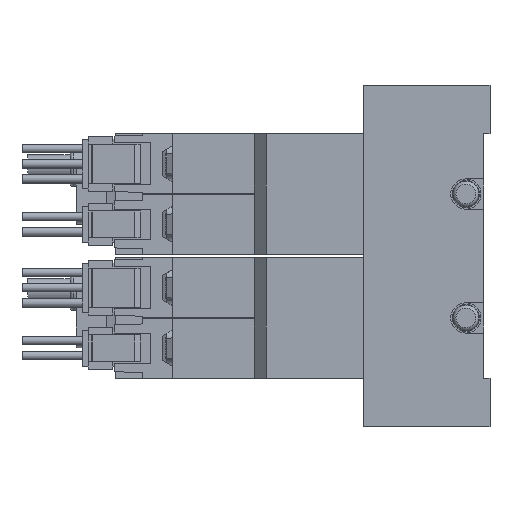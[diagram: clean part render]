
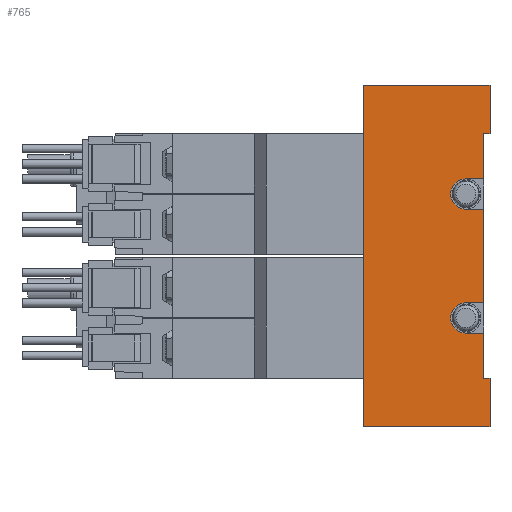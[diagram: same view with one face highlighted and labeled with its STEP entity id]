
A CAD part, left-side view. The second image highlights one B-rep face of the part: STEP entity #765.
In plain terms, the highlighted planar face has unit normal (-1, 0, 0) as drawn and (1, 0, 0) by its records, which use the part's own axes.
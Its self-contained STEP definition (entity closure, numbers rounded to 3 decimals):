
#765=ADVANCED_FACE('',(#1685),#1686,.F.);
#1685=FACE_OUTER_BOUND('',#2651,.T.);
#1686=PLANE('',#2652);
#2651=EDGE_LOOP('',(#5966,#5967,#5968,#5969,#5970,#5971,#5972,#5973,#5974,#5975,#5976,#5977,#5978,#5979,#5980,#5981));
#2652=AXIS2_PLACEMENT_3D('',#5982,#5983,#5984);
#5966=ORIENTED_EDGE('',*,*,#7183,.T.);
#5967=ORIENTED_EDGE('',*,*,#7208,.T.);
#5968=ORIENTED_EDGE('',*,*,#7209,.F.);
#5969=ORIENTED_EDGE('',*,*,#7210,.F.);
#5970=ORIENTED_EDGE('',*,*,#7211,.T.);
#5971=ORIENTED_EDGE('',*,*,#7212,.T.);
#5972=ORIENTED_EDGE('',*,*,#7174,.T.);
#5973=ORIENTED_EDGE('',*,*,#7188,.F.);
#5974=ORIENTED_EDGE('',*,*,#7213,.F.);
#5975=ORIENTED_EDGE('',*,*,#7179,.F.);
#5976=ORIENTED_EDGE('',*,*,#7170,.T.);
#5977=ORIENTED_EDGE('',*,*,#7194,.F.);
#5978=ORIENTED_EDGE('',*,*,#7214,.F.);
#5979=ORIENTED_EDGE('',*,*,#7149,.F.);
#5980=ORIENTED_EDGE('',*,*,#7167,.T.);
#5981=ORIENTED_EDGE('',*,*,#7215,.T.);
#5982=CARTESIAN_POINT('',(17.5,1.0,28.25));
#5983=DIRECTION('',(-1.0,0.0,0.0));
#5984=DIRECTION('',(0.0,0.0,1.0));
#7149=EDGE_CURVE('',#8893,#8894,#8895,.T.);
#7167=EDGE_CURVE('',#8893,#8926,#8929,.T.);
#7170=EDGE_CURVE('',#8934,#8932,#8935,.T.);
#7174=EDGE_CURVE('',#8942,#8940,#8943,.T.);
#7179=EDGE_CURVE('',#8934,#8951,#8952,.T.);
#7183=EDGE_CURVE('',#8958,#8959,#8960,.T.);
#7188=EDGE_CURVE('',#8968,#8940,#8969,.T.);
#7194=EDGE_CURVE('',#8979,#8932,#8980,.T.);
#7208=EDGE_CURVE('',#8959,#9002,#9003,.T.);
#7209=EDGE_CURVE('',#9004,#9002,#9005,.T.);
#7210=EDGE_CURVE('',#9006,#9004,#9007,.T.);
#7211=EDGE_CURVE('',#9006,#9008,#9009,.T.);
#7212=EDGE_CURVE('',#9008,#8942,#9010,.T.);
#7213=EDGE_CURVE('',#8951,#8968,#9011,.T.);
#7214=EDGE_CURVE('',#8894,#8979,#9012,.T.);
#7215=EDGE_CURVE('',#8926,#8958,#9013,.T.);
#8893=VERTEX_POINT('',#11743);
#8894=VERTEX_POINT('',#11744);
#8895=LINE('',#11745,#11746);
#8926=VERTEX_POINT('',#11826);
#8929=LINE('',#11830,#11831);
#8932=VERTEX_POINT('',#11835);
#8934=VERTEX_POINT('',#11838);
#8935=LINE('',#11839,#11840);
#8940=VERTEX_POINT('',#11847);
#8942=VERTEX_POINT('',#11850);
#8943=LINE('',#11851,#11852);
#8951=VERTEX_POINT('',#11862);
#8952=LINE('',#11863,#11864);
#8958=VERTEX_POINT('',#11873);
#8959=VERTEX_POINT('',#11874);
#8960=LINE('',#11875,#11876);
#8968=VERTEX_POINT('',#11887);
#8969=LINE('',#11888,#11889);
#8979=VERTEX_POINT('',#11902);
#8980=LINE('',#11903,#11904);
#9002=VERTEX_POINT('',#11933);
#9003=LINE('',#11934,#11935);
#9004=VERTEX_POINT('',#11936);
#9005=LINE('',#11937,#11938);
#9006=VERTEX_POINT('',#11939);
#9007=LINE('',#11940,#11941);
#9008=VERTEX_POINT('',#11942);
#9009=LINE('',#11943,#11944);
#9010=LINE('',#11945,#11946);
#9011=CIRCLE('',#11947,2.5);
#9012=CIRCLE('',#11948,2.5);
#9013=LINE('',#11949,#11950);
#11743=CARTESIAN_POINT('',(17.5,1.0,-12.75));
#11744=CARTESIAN_POINT('',(17.5,4.0,-12.75));
#11745=CARTESIAN_POINT('',(17.5,1.0,-12.75));
#11746=VECTOR('',#13218,1.0);
#11826=CARTESIAN_POINT('',(17.5,1.0,-20.25));
#11830=CARTESIAN_POINT('',(17.5,1.0,28.25));
#11831=VECTOR('',#13255,1.0);
#11835=CARTESIAN_POINT('',(17.5,1.0,-7.75));
#11838=CARTESIAN_POINT('',(17.5,1.0,7.75));
#11839=CARTESIAN_POINT('',(17.5,1.0,28.25));
#11840=VECTOR('',#13258,1.0);
#11847=CARTESIAN_POINT('',(17.5,1.0,12.75));
#11850=CARTESIAN_POINT('',(17.5,1.0,20.25));
#11851=CARTESIAN_POINT('',(17.5,1.0,28.25));
#11852=VECTOR('',#13262,1.0);
#11862=CARTESIAN_POINT('',(17.5,4.0,7.75));
#11863=CARTESIAN_POINT('',(17.5,1.0,7.75));
#11864=VECTOR('',#13271,1.0);
#11873=CARTESIAN_POINT('',(17.5,0.0,-20.25));
#11874=CARTESIAN_POINT('',(17.5,0.0,-28.25));
#11875=CARTESIAN_POINT('',(17.5,0.0,-20.25));
#11876=VECTOR('',#13275,1.0);
#11887=CARTESIAN_POINT('',(17.5,4.0,12.75));
#11888=CARTESIAN_POINT('',(17.5,1.0,12.75));
#11889=VECTOR('',#13282,1.0);
#11902=CARTESIAN_POINT('',(17.5,4.0,-7.75));
#11903=CARTESIAN_POINT('',(17.5,1.0,-7.75));
#11904=VECTOR('',#13292,1.0);
#11933=CARTESIAN_POINT('',(17.5,21.0,-28.25));
#11934=CARTESIAN_POINT('',(17.5,1.0,-28.25));
#11935=VECTOR('',#13318,1.0);
#11936=CARTESIAN_POINT('',(17.5,21.0,28.25));
#11937=CARTESIAN_POINT('',(17.5,21.0,28.25));
#11938=VECTOR('',#13319,1.0);
#11939=CARTESIAN_POINT('',(17.5,0.0,28.25));
#11940=CARTESIAN_POINT('',(17.5,1.0,28.25));
#11941=VECTOR('',#13320,1.0);
#11942=CARTESIAN_POINT('',(17.5,0.0,20.25));
#11943=CARTESIAN_POINT('',(17.5,0.0,28.25));
#11944=VECTOR('',#13321,1.0);
#11945=CARTESIAN_POINT('',(17.5,0.0,20.25));
#11946=VECTOR('',#13322,1.0);
#11947=AXIS2_PLACEMENT_3D('',#13323,#13324,#13325);
#11948=AXIS2_PLACEMENT_3D('',#13326,#13327,#13328);
#11949=CARTESIAN_POINT('',(17.5,4.0,-20.25));
#11950=VECTOR('',#13329,1.0);
#13218=DIRECTION('',(0.0,1.0,0.0));
#13255=DIRECTION('',(0.0,0.0,-1.0));
#13258=DIRECTION('',(0.0,0.0,-1.0));
#13262=DIRECTION('',(0.0,0.0,-1.0));
#13271=DIRECTION('',(0.0,1.0,0.0));
#13275=DIRECTION('',(0.0,0.0,-1.0));
#13282=DIRECTION('',(0.0,-1.0,0.0));
#13292=DIRECTION('',(0.0,-1.0,0.0));
#13318=DIRECTION('',(0.0,1.0,0.0));
#13319=DIRECTION('',(0.0,0.0,-1.0));
#13320=DIRECTION('',(0.0,1.0,0.0));
#13321=DIRECTION('',(0.0,0.0,-1.0));
#13322=DIRECTION('',(0.0,1.0,0.0));
#13323=CARTESIAN_POINT('',(17.5,4.0,10.25));
#13324=DIRECTION('',(1.0,0.0,-0.0));
#13325=DIRECTION('',(0.0,0.0,1.0));
#13326=CARTESIAN_POINT('',(17.5,4.0,-10.25));
#13327=DIRECTION('',(1.0,0.0,-0.0));
#13328=DIRECTION('',(0.0,0.0,1.0));
#13329=DIRECTION('',(0.0,-1.0,0.0));
